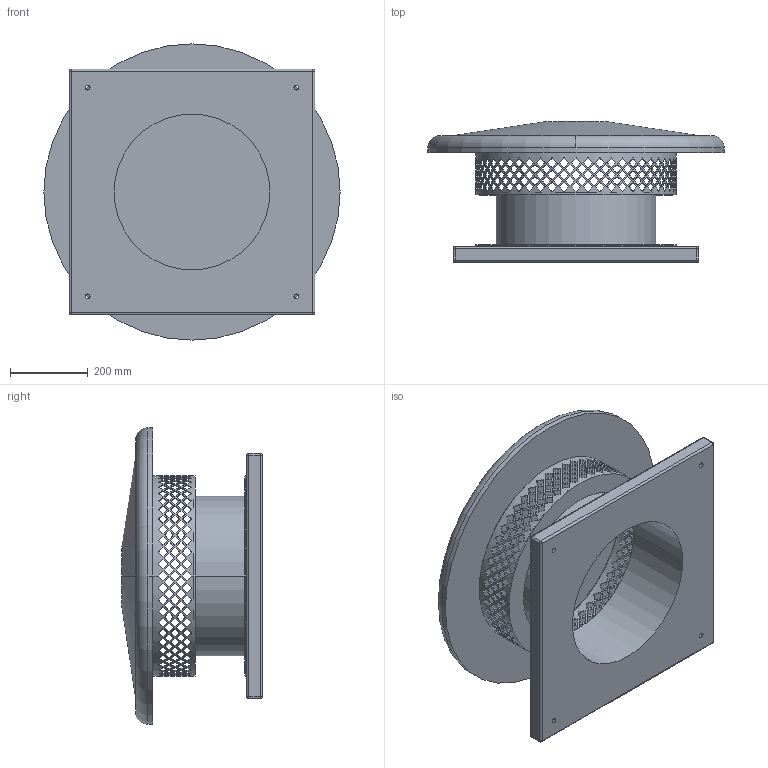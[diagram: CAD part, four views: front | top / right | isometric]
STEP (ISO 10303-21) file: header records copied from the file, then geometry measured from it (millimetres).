
FILE_DESCRIPTION(('STEP AP214'),'1');
FILE_NAME('fan_5113433600.stp','2017-03-31T12:44:05',('TraceParts'),('TraceParts S.A.'),'Spatial InterOp 3D',' ',' ');
FILE_SCHEMA(('automotive_design'));
Length unit declared in the file: millimetre
Products named in the file (1): fan_5113433600
Bounding box: 760 x 361 x 760 mm (x, y, z)
Volume: 36989729 mm3; surface area: 2390362.8 mm2
Topology: 1 solids, 1 shells, 1099 faces, 3268 edges, 2158 vertices
Faces by surface type: plane 1053, cylinder 32, sphere 8, torus 4, cone 2
Entity records: 47952 total; most frequent: DIRECTION 7622, ORIENTED_EDGE 6520, CARTESIAN_POINT 6518, AXIS2_PLACEMENT_3D 3262, EDGE_CURVE 3260, VERTEX_POINT 2158, ELLIPSE 2080, EDGE_LOOP 1622
